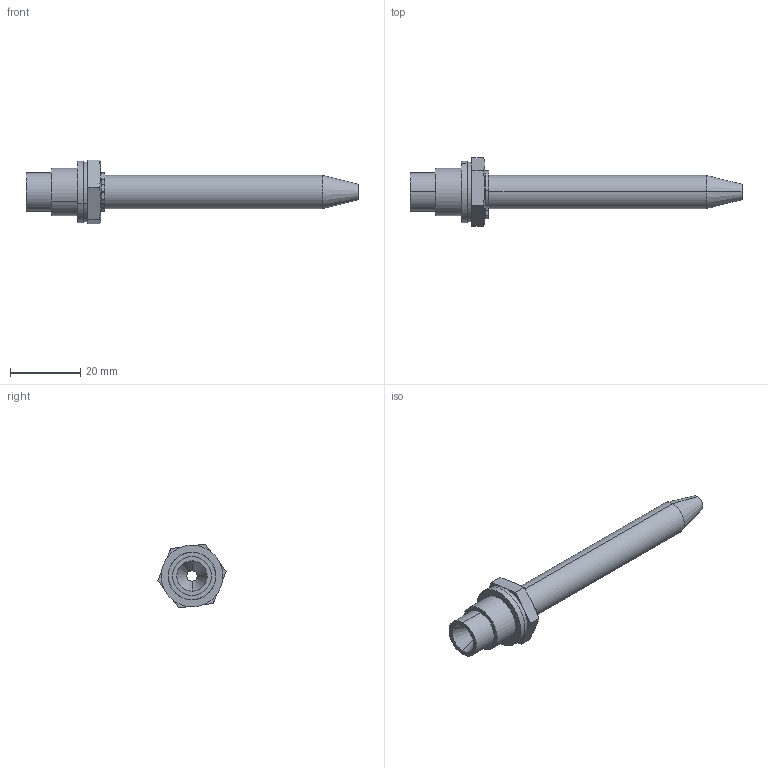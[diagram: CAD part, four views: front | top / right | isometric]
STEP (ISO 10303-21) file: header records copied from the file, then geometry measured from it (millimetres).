
FILE_DESCRIPTION (( 'STEP AP214' ), '1' );
FILE_NAME ('0000003188.STEP', '2015-11-23T15:55:28', ( 'HP' ), ( 'Hewlett-Packard Company' ), 'SwSTEP 2.0', 'SolidWorks 2014', '' );
FILE_SCHEMA (( 'AUTOMOTIVE_DESIGN' ));
Length unit declared in the file: millimetre
Products named in the file (4): 0000003187; 0000003181; circlip for shafts normal_din_Circlip DIN 471 - 9 x 1; 0000003188
Assembly tree (3 placements, depth 2):
  0000003188
    0000003187
    0000003181
    circlip for shafts normal_din_Circlip DIN 471 - 9 x 1
Bounding box: 94.2 x 19.46 x 18.14 mm (x, y, z)
Volume: 7341 mm3; surface area: 5763.7 mm2
Topology: 4 solids, 4 shells, 85 faces, 201 edges, 128 vertices
Faces by surface type: cylinder 35, plane 34, cone 16
Entity records: 2752 total; most frequent: CARTESIAN_POINT 496, DIRECTION 449, ORIENTED_EDGE 402, EDGE_CURVE 201, AXIS2_PLACEMENT_3D 181, VERTEX_POINT 128, EDGE_LOOP 95, CIRCLE 90
